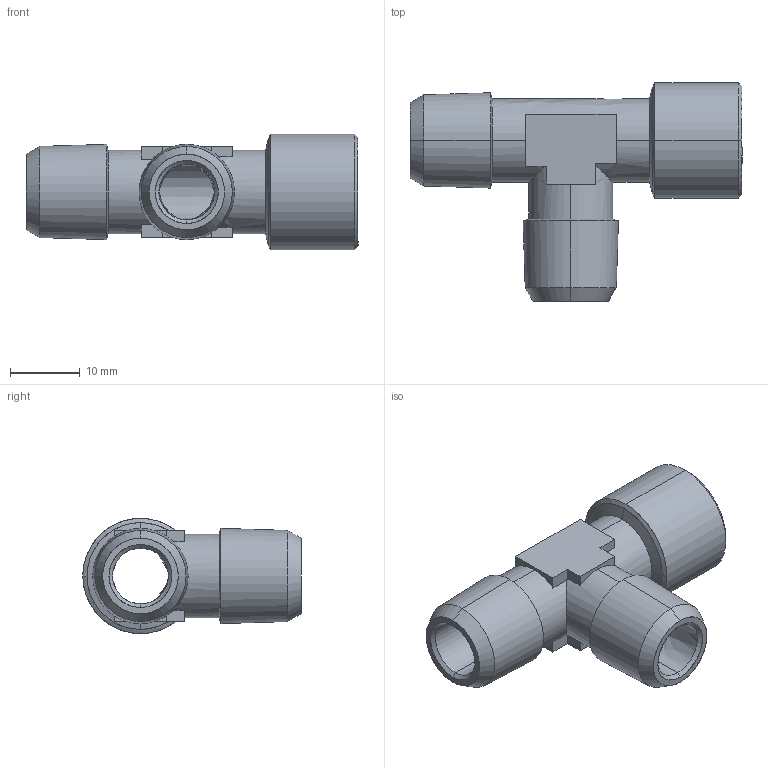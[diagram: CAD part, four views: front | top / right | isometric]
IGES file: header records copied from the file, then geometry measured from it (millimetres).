
Start section: SolidWorks IGES file using analytic representation for surfaces
Global section: file name: K:\Disegni Esecutivi\Accessori\4030\ASSIEMI_.IGES_4030\0403000010300.IGS; native system: SolidWorks 2007; preprocessor: SolidWorks 2007; author: cad02; date: 071023.135922; units: millimetre
Bounding box: 47.5 x 31.25 x 16.5 mm (x, y, z)
Surface area: 4826 mm2 (no closed solid volume)
Topology: 0 solids, 0 shells, 61 faces, 612 edges, 612 vertices
Faces by surface type: revolution 38, bspline 23
